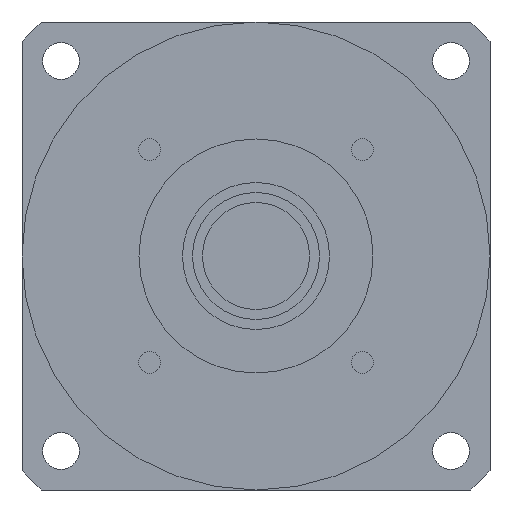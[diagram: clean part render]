
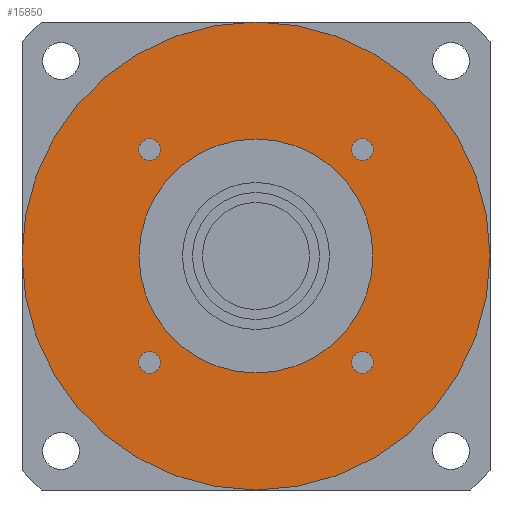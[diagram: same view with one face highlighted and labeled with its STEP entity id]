
A CAD part, left-side view. The second image highlights one B-rep face of the part: STEP entity #15850.
In plain terms, the highlighted planar face has unit normal (-1, 0, 0) as drawn and (0, 0, -1) by its records, which use the part's own axes.
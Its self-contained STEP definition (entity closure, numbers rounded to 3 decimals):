
#14690=CARTESIAN_POINT('',(-70.,0.,-79.7));
#14700=VERTEX_POINT('',#14690);
#14730=CARTESIAN_POINT('',(0.,0.,
-79.7));
#14740=DIRECTION('',(0.,0.,-1.));
#14750=DIRECTION('',(0.,-1.,0.));
#14760=AXIS2_PLACEMENT_3D('',#14730,#14740,#14750);
#14770=CIRCLE('',#14760,70.);
#14780=CARTESIAN_POINT('',(70.,0.,-79.7));
#14790=VERTEX_POINT('',#14780);
#14800=EDGE_CURVE('',#14700,#14790,#14770,.T.);
#14920=CARTESIAN_POINT('',(0.,0.,
-79.7));
#14930=DIRECTION('',(0.,0.,-1.));
#14940=DIRECTION('',(1.,0.,0.));
#14950=AXIS2_PLACEMENT_3D('',#14920,#14930,#14940);
#14960=PLANE('',#14950);
#14970=CARTESIAN_POINT('',(-31.82,31.82,-79.7));
#14980=DIRECTION('',(0.,0.,-1.));
#14990=DIRECTION('',(-1.,0.,0.));
#15000=AXIS2_PLACEMENT_3D('',#14970,#14980,#14990);
#15010=CIRCLE('',#15000,3.25);
#15020=CARTESIAN_POINT('',(-35.07,31.82,-79.7));
#15030=VERTEX_POINT('',#15020);
#15040=CARTESIAN_POINT('',(-28.57,31.82,-79.7));
#15050=VERTEX_POINT('',#15040);
#15060=EDGE_CURVE('',#15030,#15050,#15010,.T.);
#15070=ORIENTED_EDGE('',*,*,#15060,.F.);
#15080=EDGE_CURVE('',#15050,#15030,#15010,.T.);
#15090=ORIENTED_EDGE('',*,*,#15080,.F.);
#15100=EDGE_LOOP('',(#15090,#15070));
#15110=FACE_BOUND('',#15100,.T.);
#15120=CARTESIAN_POINT('',(-31.82,-31.82,-79.7));
#15130=DIRECTION('',(0.,0.,-1.));
#15140=DIRECTION('',(0.,-1.,0.));
#15150=AXIS2_PLACEMENT_3D('',#15120,#15130,#15140);
#15160=CIRCLE('',#15150,3.25);
#15170=CARTESIAN_POINT('',(-31.82,-35.07,-79.7));
#15180=VERTEX_POINT('',#15170);
#15190=CARTESIAN_POINT('',(-31.82,-28.57,-79.7));
#15200=VERTEX_POINT('',#15190);
#15210=EDGE_CURVE('',#15180,#15200,#15160,.T.);
#15220=ORIENTED_EDGE('',*,*,#15210,.F.);
#15230=EDGE_CURVE('',#15200,#15180,#15160,.T.);
#15240=ORIENTED_EDGE('',*,*,#15230,.F.);
#15250=EDGE_LOOP('',(#15240,#15220));
#15260=FACE_BOUND('',#15250,.T.);
#15270=CARTESIAN_POINT('',(0.,0.,
-79.7));
#15280=DIRECTION('',(0.,0.,1.));
#15290=DIRECTION('',(0.,1.,0.));
#15300=AXIS2_PLACEMENT_3D('',#15270,#15280,#15290);
#15310=CIRCLE('',#15300,35.);
#15320=CARTESIAN_POINT('',(-35.,0.,-79.7));
#15330=VERTEX_POINT('',#15320);
#15340=CARTESIAN_POINT('',(35.,0.,-79.7));
#15350=VERTEX_POINT('',#15340);
#15360=EDGE_CURVE('',#15330,#15350,#15310,.T.);
#15370=ORIENTED_EDGE('',*,*,#15360,.T.);
#15380=CARTESIAN_POINT('',(0.,35.,-79.7));
#15390=VERTEX_POINT('',#15380);
#15400=EDGE_CURVE('',#15390,#15330,#15310,.T.);
#15410=ORIENTED_EDGE('',*,*,#15400,.T.);
#15420=EDGE_CURVE('',#15350,#15390,#15310,.T.);
#15430=ORIENTED_EDGE('',*,*,#15420,.T.);
#15440=EDGE_LOOP('',(#15430,#15410,#15370));
#15450=FACE_BOUND('',#15440,.T.);
#15460=CARTESIAN_POINT('',(31.82,-31.82,-79.7));
#15470=DIRECTION('',(0.,0.,-1.));
#15480=DIRECTION('',(1.,0.,0.));
#15490=AXIS2_PLACEMENT_3D('',#15460,#15470,#15480);
#15500=CIRCLE('',#15490,3.25);
#15510=CARTESIAN_POINT('',(35.07,-31.82,-79.7));
#15520=VERTEX_POINT('',#15510);
#15530=CARTESIAN_POINT('',(28.57,-31.82,-79.7));
#15540=VERTEX_POINT('',#15530);
#15550=EDGE_CURVE('',#15520,#15540,#15500,.T.);
#15560=ORIENTED_EDGE('',*,*,#15550,.F.);
#15570=EDGE_CURVE('',#15540,#15520,#15500,.T.);
#15580=ORIENTED_EDGE('',*,*,#15570,.F.);
#15590=EDGE_LOOP('',(#15580,#15560));
#15600=FACE_BOUND('',#15590,.T.);
#15610=CARTESIAN_POINT('',(31.82,31.82,-79.7));
#15620=DIRECTION('',(0.,0.,-1.));
#15630=DIRECTION('',(0.,1.,0.));
#15640=AXIS2_PLACEMENT_3D('',#15610,#15620,#15630);
#15650=CIRCLE('',#15640,3.25);
#15660=CARTESIAN_POINT('',(31.82,35.07,-79.7));
#15670=VERTEX_POINT('',#15660);
#15680=CARTESIAN_POINT('',(31.82,28.57,-79.7));
#15690=VERTEX_POINT('',#15680);
#15700=EDGE_CURVE('',#15670,#15690,#15650,.T.);
#15710=ORIENTED_EDGE('',*,*,#15700,.F.);
#15720=EDGE_CURVE('',#15690,#15670,#15650,.T.);
#15730=ORIENTED_EDGE('',*,*,#15720,.F.);
#15740=EDGE_LOOP('',(#15730,#15710));
#15750=FACE_BOUND('',#15740,.T.);
#15760=ORIENTED_EDGE('',*,*,#14800,.T.);
#15770=CARTESIAN_POINT('',(0.,-70.,-79.7));
#15780=VERTEX_POINT('',#15770);
#15790=EDGE_CURVE('',#15780,#14700,#14770,.T.);
#15800=ORIENTED_EDGE('',*,*,#15790,.T.);
#15810=EDGE_CURVE('',#14790,#15780,#14770,.T.);
#15820=ORIENTED_EDGE('',*,*,#15810,.T.);
#15830=EDGE_LOOP('',(#15820,#15800,#15760));
#15840=FACE_OUTER_BOUND('',#15830,.T.);
#15850=ADVANCED_FACE('',(#15110,#15260,#15450,#15600,#15750,#15840),
#14960,.T.);
